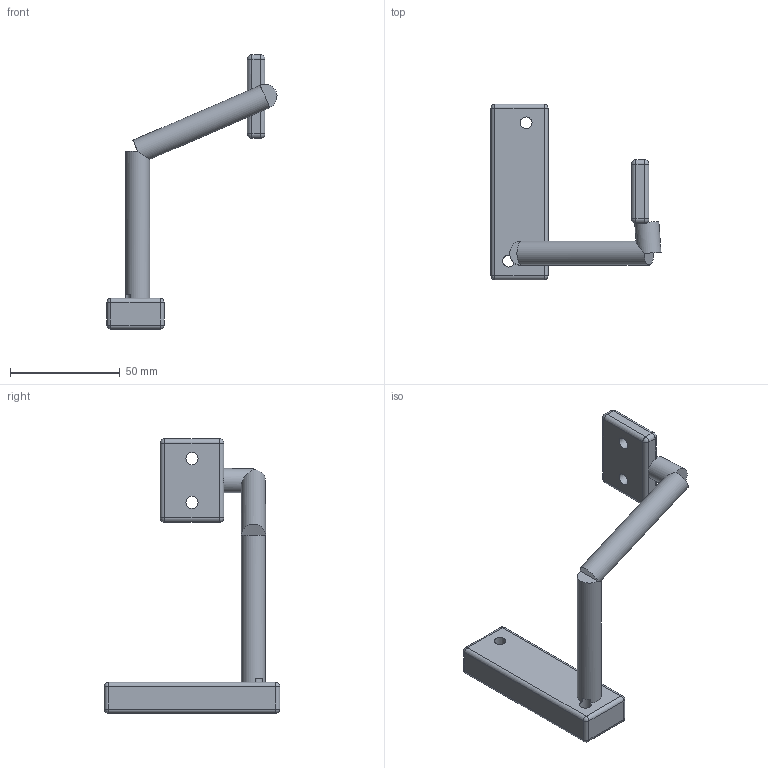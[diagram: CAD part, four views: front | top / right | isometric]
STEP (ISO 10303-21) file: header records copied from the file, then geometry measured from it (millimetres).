
FILE_DESCRIPTION(('Open CASCADE Model'),'2;1');
FILE_NAME('Open CASCADE Shape Model','2026-11-04T09:19:23',('Author'),( 'Open CASCADE'),'Open CASCADE STEP processor 7.8','Open CASCADE 7.8' ,'Unknown');
FILE_SCHEMA(('AUTOMOTIVE_DESIGN { 1 0 10303 214 1 1 1 1 }'));
Length unit declared in the file: millimetre
Products named in the file (1): Open CASCADE STEP translator 7.8 2
Bounding box: 77.48 x 80 x 125 mm (x, y, z)
Volume: 49640.1 mm3; surface area: 15196.2 mm2
Topology: 1 solids, 1 shells, 66 faces, 156 edges, 76 vertices
Faces by surface type: cylinder 31, plane 19, sphere 16
Full cylindrical faces by diameter (mm): 5.4 x2, 5.5 x2, 11 x3
Entity records: 3787 total; most frequent: CARTESIAN_POINT 835, DIRECTION 593, LINE 292, VECTOR 292, ORIENTED_EDGE 280, PCURVE 280, DEFINITIONAL_REPRESENTATION 280, AXIS2_PLACEMENT_3D 141
